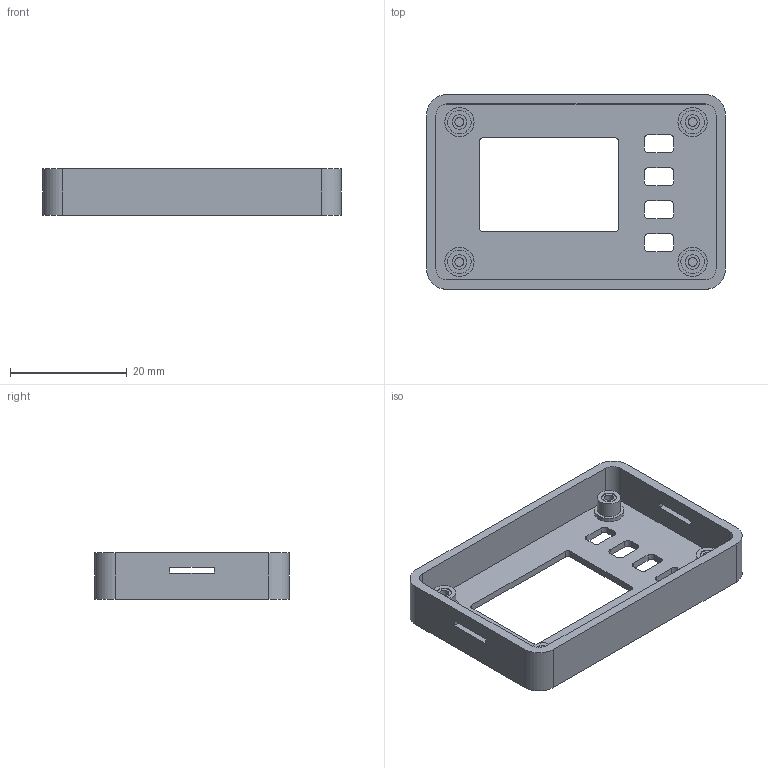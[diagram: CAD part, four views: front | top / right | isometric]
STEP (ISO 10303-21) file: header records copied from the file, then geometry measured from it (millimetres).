
FILE_DESCRIPTION(('Open CASCADE Model'),'2;1');
FILE_NAME('Open CASCADE Shape Model','2026-10-14T08:11:13',('Author'),( 'Open CASCADE'),'Open CASCADE STEP processor 7.9','Open CASCADE 7.9' ,'Unknown');
FILE_SCHEMA(('AUTOMOTIVE_DESIGN { 1 0 10303 214 1 1 1 1 }'));
Length unit declared in the file: millimetre
Products named in the file (1): Open CASCADE STEP translator 7.9 1
Bounding box: 51.3 x 33.4 x 8 mm (x, y, z)
Volume: 3375.2 mm3; surface area: 5280.8 mm2
Topology: 1 solids, 1 shells, 99 faces, 240 edges, 160 vertices
Faces by surface type: plane 55, cylinder 44
Full cylindrical faces by diameter (mm): 1.55 x4, 2.5 x4, 4 x4, 5 x4
Entity records: 6014 total; most frequent: CARTESIAN_POINT 1208, DIRECTION 870, ORIENTED_EDGE 480, PCURVE 480, DEFINITIONAL_REPRESENTATION 480, LINE 424, VECTOR 424, EDGE_CURVE 240
